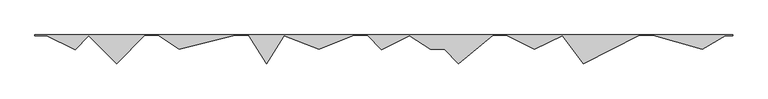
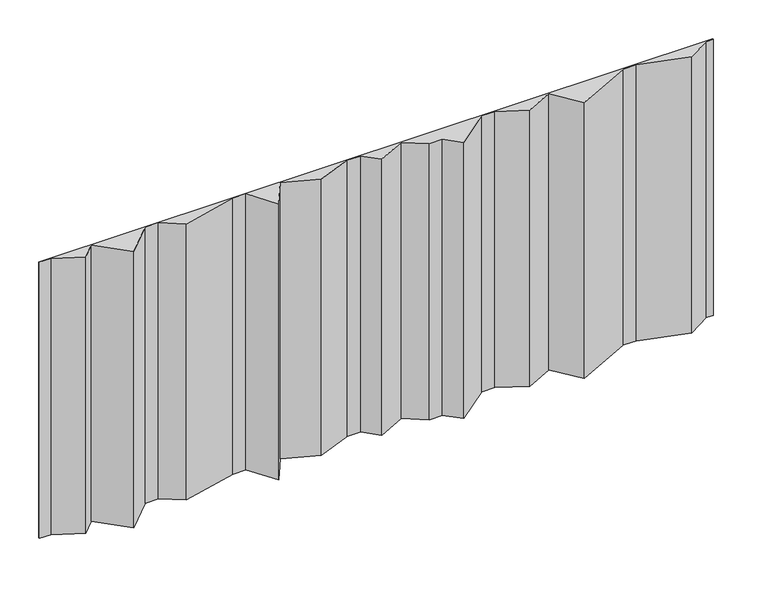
"""IFC4 building model written with IfcOpenShell, lengths in millimetres: plate geometry, ATELIERS 3S_GLACE PISSAILLAS 1000_VERTICAL : AZURO."""

from ifc_helpers import new_model, si_unit, origin, origin_with_axes, place, context, project, spatial, polyline, outline, extrude, source, transform, mapped, element, save


def plate_1e133c90(model_context):
    return source(origin(), model_context, "Body", "SweptSolid", [
        extrude(outline(polyline([(-482.9527884, -0.864757), (-500.0000002, -0.864757), (-500.0000002, 0.0), (499.9999998, 0.0), (499.9999998, -1.0), (489.7755034, -1.0), (456.4025168, -20.8096981), (385.886243, -0.75), (366.1678949, -0.75), (285.7664033, -40.9507458), (255.7664033, -0.9507458), (215.9908439, -20.8385255), (175.813793, -0.75), (156.2580963, -0.75), (106.9399197, -41.009736), (86.6801838, -20.75), (66.7637622, -20.75), (36.9369619, -0.8654665), (-3.1572458, -20.9125704), (-23.3198162, -0.75), (-42.8647193, -0.75), (-93.0091561, -20.8077747), (-142.7054948, -0.9292392), (-168.0091561, -41.4150972), (-193.4248418, -0.75), (-212.9168268, -0.75), (-293.1491257, -20.8080747), (-323.2362378, -0.75), (-342.6984959, -0.75), (-383.0091561, -41.0606602), (-423.0037163, -1.0660999), (-442.4501561, -20.9135393), (-482.9527884, -0.864757)])), origin_with_axes(), (0.0, 0.0, 1.0), 433.4619218),
    ])


if __name__ == "__main__":
    model = new_model("IFC4")
    model_context = context("Model", 3, world=origin())
    ifc_project = project(units=[si_unit("LENGTHUNIT", "METRE", prefix="MILLI")], contexts=[model_context])
    site = spatial("IfcSite", under=ifc_project)
    building = spatial("IfcBuilding", under=site)
    placement = place(None, origin())
    plate_shape = plate_1e133c90(model_context)
    element("IfcPlate", 1, ObjectType="ATELIERS 3S_GLACE PISSAILLAS 1000_VERTICAL : AZURO", at=placement, inside=building, context=model_context, shape_type="MappedRepresentation", body=[
        mapped(plate_shape, transform((0.0, 0.0, 0.0), x_axis=(1.0, 0.0, 0.0), y_axis=(0.0, 1.0, 0.0), z_axis=(0.0, 0.0, 1.0))),
    ])
    save(model, "model.ifc")
